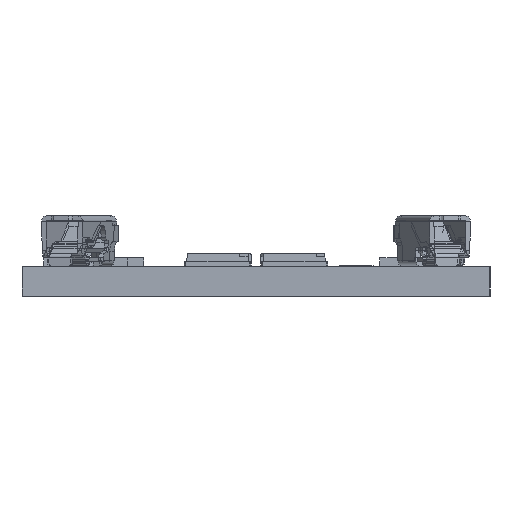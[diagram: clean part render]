
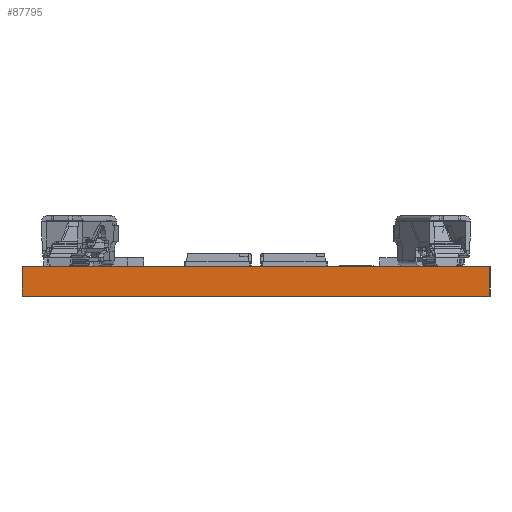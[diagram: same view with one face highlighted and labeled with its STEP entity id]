
A CAD part, left-side view. The second image highlights one B-rep face of the part: STEP entity #87795.
In plain terms, the highlighted planar face has unit normal (-1, 0, 0).
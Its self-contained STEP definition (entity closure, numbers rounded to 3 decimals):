
#8447=DIRECTION('',(0.,-1.,0.));
#8448=VECTOR('',#8447,25.);
#8449=CARTESIAN_POINT('',(-139.5,11.501,0.));
#8450=LINE('',#8449,#8448);
#25632=DIRECTION('',(0.,-1.,0.));
#25633=VECTOR('',#25632,25.);
#25634=CARTESIAN_POINT('',(-139.5,11.501,-1.6));
#25635=LINE('',#25634,#25633);
#25834=DIRECTION('',(0.,0.,-1.));
#25835=VECTOR('',#25834,1.6);
#25836=CARTESIAN_POINT('',(-139.5,11.501,0.));
#25837=LINE('',#25836,#25835);
#25838=DIRECTION('',(0.,0.,-1.));
#25839=VECTOR('',#25838,1.6);
#25840=CARTESIAN_POINT('',(-139.5,-13.499,0.));
#25841=LINE('',#25840,#25839);
#26964=CARTESIAN_POINT('',(-139.5,11.501,0.));
#26965=VERTEX_POINT('',#26964);
#26966=CARTESIAN_POINT('',(-139.5,-13.499,0.));
#26967=VERTEX_POINT('',#26966);
#27060=CARTESIAN_POINT('',(-139.5,11.501,-1.6));
#27061=VERTEX_POINT('',#27060);
#27062=CARTESIAN_POINT('',(-139.5,-13.499,-1.6));
#27063=VERTEX_POINT('',#27062);
#87783=CARTESIAN_POINT('',(-139.5,11.501,0.));
#87784=DIRECTION('',(-1.,0.,0.));
#87785=DIRECTION('',(0.,-1.,0.));
#87786=AXIS2_PLACEMENT_3D('',#87783,#87784,#87785);
#87787=PLANE('',#87786);
#87788=ORIENTED_EDGE('',*,*,#36856,.T.);
#87790=ORIENTED_EDGE('',*,*,#87789,.T.);
#87791=ORIENTED_EDGE('',*,*,#87470,.F.);
#87792=ORIENTED_EDGE('',*,*,#87769,.F.);
#87793=EDGE_LOOP('',(#87788,#87790,#87791,#87792));
#87794=FACE_OUTER_BOUND('',#87793,.F.);
#36856=EDGE_CURVE('',#26965,#26967,#8450,.T.);
#87470=EDGE_CURVE('',#27061,#27063,#25635,.T.);
#87769=EDGE_CURVE('',#26965,#27061,#25837,.T.);
#87789=EDGE_CURVE('',#26967,#27063,#25841,.T.);
#87795=ADVANCED_FACE('',(#87794),#87787,.T.);
